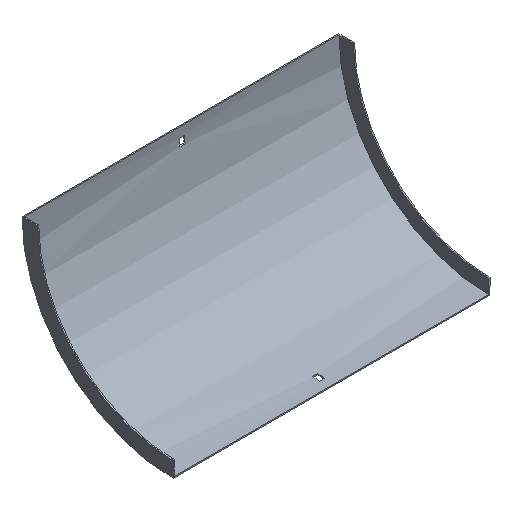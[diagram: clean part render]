
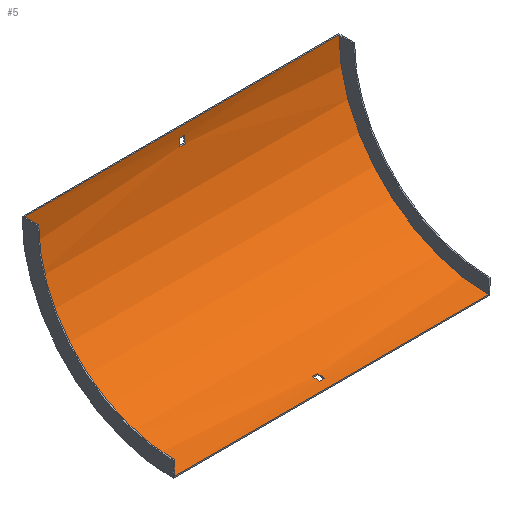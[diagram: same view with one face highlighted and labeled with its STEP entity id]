
A CAD part, isometric view. The second image highlights one B-rep face of the part: STEP entity #5.
In plain terms, the highlighted cylindrical face has radius 192.5 mm (diameter 385 mm), a partial arc.
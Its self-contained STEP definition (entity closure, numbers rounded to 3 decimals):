
#5 = ADVANCED_FACE ( 'NONE', ( #181, #379, #277 ), #568, .F. ) ;
#7 = VECTOR ( 'NONE', #396, 1000. ) ;
#8 = CIRCLE ( 'NONE', #73, 192.5 ) ;
#12 = EDGE_CURVE ( 'NONE', #463, #286, #560, .T. ) ;
#14 = VERTEX_POINT ( 'NONE', #409 ) ;
#17 = CARTESIAN_POINT ( 'NONE',  ( -3.25, -182., -192.126 ) ) ;
#18 = EDGE_CURVE ( 'NONE', #286, #563, #552, .T. ) ;
#19 = CARTESIAN_POINT ( 'NONE',  ( -202., -194., 0. ) ) ;
#20 = AXIS2_PLACEMENT_3D ( 'NONE', #601, #598, #178 ) ;
#22 = DIRECTION ( 'NONE',  ( 0., 0., 1. ) ) ;
#23 = DIRECTION ( 'NONE',  ( 1., 0., 0. ) ) ;
#24 = EDGE_CURVE ( 'NONE', #269, #33, #345, .T. ) ;
#33 = VERTEX_POINT ( 'NONE', #486 ) ;
#35 = CARTESIAN_POINT ( 'NONE',  ( 203.5, -1.874, -12. ) ) ;
#36 = DIRECTION ( 'NONE',  ( 0., 0., 1. ) ) ;
#38 = ORIENTED_EDGE ( 'NONE', *, *, #315, .F. ) ;
#40 = CARTESIAN_POINT ( 'NONE',  ( 203.5, -182., -192.126 ) ) ;
#46 = VERTEX_POINT ( 'NONE', #198 ) ;
#50 = DIRECTION ( 'NONE',  ( 0., 0., 1. ) ) ;
#66 = DIRECTION ( 'NONE',  ( 0., 0., -1. ) ) ;
#68 = DIRECTION ( 'NONE',  ( 0., 0., 1. ) ) ;
#70 = CIRCLE ( 'NONE', #416, 192.5 ) ;
#72 = CARTESIAN_POINT ( 'NONE',  ( 3.25, -173., -191.351 ) ) ;
#73 = AXIS2_PLACEMENT_3D ( 'NONE', #540, #356, #68 ) ;
#105 = AXIS2_PLACEMENT_3D ( 'NONE', #161, #349, #66 ) ;
#108 = ORIENTED_EDGE ( 'NONE', *, *, #289, .T. ) ;
#130 = VECTOR ( 'NONE', #434, 1000. ) ;
#138 = DIRECTION ( 'NONE',  ( -1., 0., 0. ) ) ;
#139 = EDGE_CURVE ( 'NONE', #14, #197, #203, .T. ) ;
#145 = VERTEX_POINT ( 'NONE', #342 ) ;
#154 = AXIS2_PLACEMENT_3D ( 'NONE', #216, #209, #22 ) ;
#161 = CARTESIAN_POINT ( 'NONE',  ( 3.25, -194., 0. ) ) ;
#165 = CARTESIAN_POINT ( 'NONE',  ( 202., -194., -192.5 ) ) ;
#167 = DIRECTION ( 'NONE',  ( -1., 0., 0. ) ) ;
#171 = CIRCLE ( 'NONE', #154, 192.5 ) ;
#173 = DIRECTION ( 'NONE',  ( 1., 0., 0. ) ) ;
#178 = DIRECTION ( 'NONE',  ( 0., 0., -1. ) ) ;
#180 = ORIENTED_EDGE ( 'NONE', *, *, #250, .F. ) ;
#181 = FACE_BOUND ( 'NONE', #288, .T. ) ;
#197 = VERTEX_POINT ( 'NONE', #256 ) ;
#198 = CARTESIAN_POINT ( 'NONE',  ( 3.25, -1.874, -12. ) ) ;
#200 = ORIENTED_EDGE ( 'NONE', *, *, #437, .F. ) ;
#203 = LINE ( 'NONE', #388, #130 ) ;
#209 = DIRECTION ( 'NONE',  ( -1., 0., 0. ) ) ;
#211 = CARTESIAN_POINT ( 'NONE',  ( -202., -1.5, 0. ) ) ;
#216 = CARTESIAN_POINT ( 'NONE',  ( -3.25, -194., 0. ) ) ;
#224 = CARTESIAN_POINT ( 'NONE',  ( -3.25, -173., -191.351 ) ) ;
#230 = DIRECTION ( 'NONE',  ( -1., 0., 0. ) ) ;
#234 = EDGE_LOOP ( 'NONE', ( #425, #600, #284, #423 ) ) ;
#250 = EDGE_CURVE ( 'NONE', #558, #280, #70, .T. ) ;
#252 = EDGE_CURVE ( 'NONE', #145, #14, #171, .T. ) ;
#256 = CARTESIAN_POINT ( 'NONE',  ( 3.25, -2.649, -21. ) ) ;
#258 = AXIS2_PLACEMENT_3D ( 'NONE', #550, #373, #50 ) ;
#261 = LINE ( 'NONE', #447, #418 ) ;
#268 = VECTOR ( 'NONE', #167, 1000. ) ;
#269 = VERTEX_POINT ( 'NONE', #165 ) ;
#277 = FACE_BOUND ( 'NONE', #234, .T. ) ;
#280 = VERTEX_POINT ( 'NONE', #211 ) ;
#284 = ORIENTED_EDGE ( 'NONE', *, *, #513, .T. ) ;
#286 = VERTEX_POINT ( 'NONE', #17 ) ;
#288 = EDGE_LOOP ( 'NONE', ( #484, #38, #200, #467 ) ) ;
#289 = EDGE_CURVE ( 'NONE', #33, #280, #539, .T. ) ;
#297 = EDGE_CURVE ( 'NONE', #269, #558, #355, .T. ) ;
#299 = ORIENTED_EDGE ( 'NONE', *, *, #24, .T. ) ;
#305 = CIRCLE ( 'NONE', #105, 192.5 ) ;
#309 = CARTESIAN_POINT ( 'NONE',  ( 202., -1.5, 0. ) ) ;
#310 = VECTOR ( 'NONE', #138, 1000. ) ;
#315 = EDGE_CURVE ( 'NONE', #46, #145, #330, .T. ) ;
#316 = DIRECTION ( 'NONE',  ( 0., 0., 1. ) ) ;
#322 = DIRECTION ( 'NONE',  ( 1., 0., 0. ) ) ;
#330 = LINE ( 'NONE', #35, #480 ) ;
#342 = CARTESIAN_POINT ( 'NONE',  ( -3.25, -1.874, -12. ) ) ;
#345 = CIRCLE ( 'NONE', #443, 192.5 ) ;
#349 = DIRECTION ( 'NONE',  ( 1., 0., 0. ) ) ;
#355 = LINE ( 'NONE', #404, #7 ) ;
#356 = DIRECTION ( 'NONE',  ( -1., 0., 0. ) ) ;
#365 = CARTESIAN_POINT ( 'NONE',  ( 202., -194., 0. ) ) ;
#373 = DIRECTION ( 'NONE',  ( -1., 0., 0. ) ) ;
#379 = FACE_OUTER_BOUND ( 'NONE', #505, .T. ) ;
#388 = CARTESIAN_POINT ( 'NONE',  ( 203.5, -2.649, -21. ) ) ;
#396 = DIRECTION ( 'NONE',  ( -1., 0., 0. ) ) ;
#404 = CARTESIAN_POINT ( 'NONE',  ( 202., -194., -192.5 ) ) ;
#409 = CARTESIAN_POINT ( 'NONE',  ( -3.25, -2.649, -21. ) ) ;
#416 = AXIS2_PLACEMENT_3D ( 'NONE', #19, #173, #316 ) ;
#418 = VECTOR ( 'NONE', #23, 1000. ) ;
#423 = ORIENTED_EDGE ( 'NONE', *, *, #511, .T. ) ;
#425 = ORIENTED_EDGE ( 'NONE', *, *, #12, .T. ) ;
#434 = DIRECTION ( 'NONE',  ( 1., 0., 0. ) ) ;
#437 = EDGE_CURVE ( 'NONE', #197, #46, #305, .T. ) ;
#443 = AXIS2_PLACEMENT_3D ( 'NONE', #365, #322, #36 ) ;
#447 = CARTESIAN_POINT ( 'NONE',  ( 203.5, -173., -191.351 ) ) ;
#463 = VERTEX_POINT ( 'NONE', #501 ) ;
#467 = ORIENTED_EDGE ( 'NONE', *, *, #139, .F. ) ;
#477 = CARTESIAN_POINT ( 'NONE',  ( -202., -194., -192.5 ) ) ;
#480 = VECTOR ( 'NONE', #230, 1000. ) ;
#484 = ORIENTED_EDGE ( 'NONE', *, *, #252, .F. ) ;
#486 = CARTESIAN_POINT ( 'NONE',  ( 202., -1.5, 0. ) ) ;
#501 = CARTESIAN_POINT ( 'NONE',  ( 3.25, -182., -192.126 ) ) ;
#505 = EDGE_LOOP ( 'NONE', ( #180, #531, #299, #108 ) ) ;
#511 = EDGE_CURVE ( 'NONE', #512, #463, #8, .T. ) ;
#512 = VERTEX_POINT ( 'NONE', #72 ) ;
#513 = EDGE_CURVE ( 'NONE', #563, #512, #261, .T. ) ;
#531 = ORIENTED_EDGE ( 'NONE', *, *, #297, .F. ) ;
#539 = LINE ( 'NONE', #309, #268 ) ;
#540 = CARTESIAN_POINT ( 'NONE',  ( 3.25, -194., 0. ) ) ;
#550 = CARTESIAN_POINT ( 'NONE',  ( 203.5, -194., 0. ) ) ;
#552 = CIRCLE ( 'NONE', #20, 192.5 ) ;
#558 = VERTEX_POINT ( 'NONE', #477 ) ;
#560 = LINE ( 'NONE', #40, #310 ) ;
#563 = VERTEX_POINT ( 'NONE', #224 ) ;
#568 = CYLINDRICAL_SURFACE ( 'NONE', #258, 192.5 ) ;
#598 = DIRECTION ( 'NONE',  ( 1., 0., 0. ) ) ;
#600 = ORIENTED_EDGE ( 'NONE', *, *, #18, .T. ) ;
#601 = CARTESIAN_POINT ( 'NONE',  ( -3.25, -194., 0. ) ) ;
